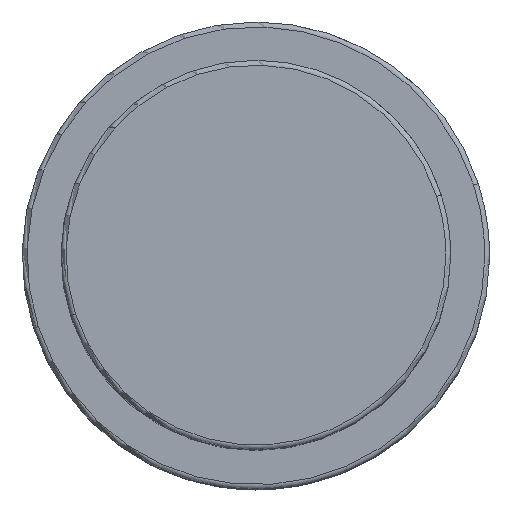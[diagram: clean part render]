
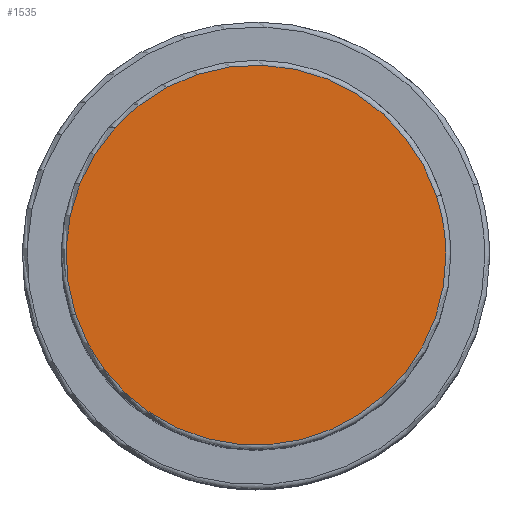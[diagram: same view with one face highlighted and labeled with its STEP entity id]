
A CAD part, top view. The second image highlights one B-rep face of the part: STEP entity #1535.
In plain terms, the highlighted planar face has unit normal (0, 0, 1).
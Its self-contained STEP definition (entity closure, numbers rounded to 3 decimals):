
#1501=CARTESIAN_POINT('',(19.5,0.0,53.5));
#1502=VERTEX_POINT('',#1501);
#1503=CARTESIAN_POINT('',(18.546,6.026,53.5));
#1504=VERTEX_POINT('',#1503);
#1505=CARTESIAN_POINT('',(0.0,0.0,53.5));
#1506=DIRECTION('',(0.0,0.0,1.0));
#1507=DIRECTION('',(1.0,0.0,0.0));
#1508=AXIS2_PLACEMENT_3D('',#1505,#1506,#1507);
#1509=CIRCLE('',#1508,19.5);
#1510=EDGE_CURVE('no 1762',#1502,#1504,#1509,.T.);
#1511=ORIENTED_EDGE('',*,*,#1510,.T.);
#1512=CARTESIAN_POINT('',(-18.546,-6.026,53.5));
#1513=VERTEX_POINT('',#1512);
#1514=CARTESIAN_POINT('',(0.0,0.0,53.5));
#1515=DIRECTION('',(0.0,0.0,1.0));
#1516=DIRECTION('',(1.0,0.0,0.0));
#1517=AXIS2_PLACEMENT_3D('',#1514,#1515,#1516);
#1518=CIRCLE('',#1517,19.5);
#1519=EDGE_CURVE('no 1768',#1504,#1513,#1518,.T.);
#1520=ORIENTED_EDGE('',*,*,#1519,.T.);
#1521=CARTESIAN_POINT('',(0.0,0.0,53.5));
#1522=DIRECTION('',(0.0,0.0,1.0));
#1523=DIRECTION('',(1.0,0.0,0.0));
#1524=AXIS2_PLACEMENT_3D('',#1521,#1522,#1523);
#1525=CIRCLE('',#1524,19.5);
#1526=EDGE_CURVE('no 1772',#1513,#1502,#1525,.T.);
#1527=ORIENTED_EDGE('',*,*,#1526,.T.);
#1528=EDGE_LOOP('',(#1511,#1520,#1527));
#1529=FACE_OUTER_BOUND('',#1528,.T.);
#1530=CARTESIAN_POINT('',(0.0,0.0,53.5));
#1531=DIRECTION('',(0.0,0.0,1.0));
#1532=DIRECTION('',(1.0,0.0,0.0));
#1533=AXIS2_PLACEMENT_3D('',#1530,#1531,#1532);
#1534=PLANE('',#1533);
#1535=ADVANCED_FACE('no 1753',(#1529),#1534,.T.);
